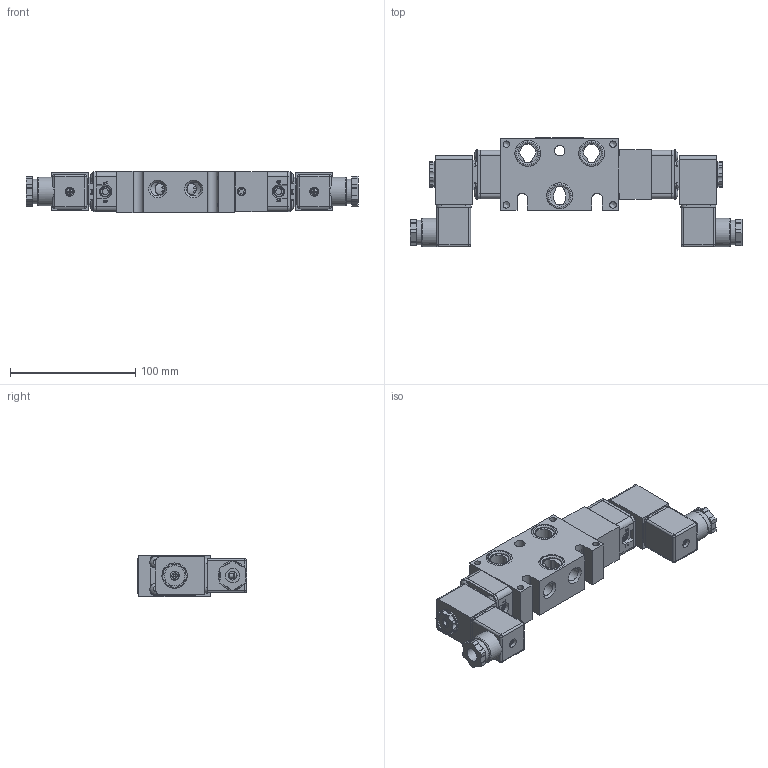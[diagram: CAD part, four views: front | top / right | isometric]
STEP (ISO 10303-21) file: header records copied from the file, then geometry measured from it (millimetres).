
FILE_DESCRIPTION(/* description */ (''),/* implementation_level */ '2;1');
FILE_NAME(/* name */ 'EBSS2AQZ.stp',/* time_stamp */ '2026-09-29T10:06:49-04:00',/* author */ ('rmckenna'),/* organization */ (''),/* preprocessor_version */ 'ST-DEVELOPER v20.2',/* originating_system */ 'Autodesk Inventor 2027',/* authorisation */ '');
FILE_SCHEMA (('AUTOMOTIVE_DESIGN { 1 0 10303 214 3 1 1 }'));
Products named in the file (1): Part75
Bounding box: 264.59 x 87.58 x 33.32 mm (x, y, z)
Volume: 309110.2 mm3; surface area: 128113.6 mm2
Topology: 1 solids, 44 shells, 2553 faces, 6314 edges, 4040 vertices
Faces by surface type: plane 1249, cylinder 744, cone 291, torus 155, bspline 94, sphere 20
Full cylindrical faces by diameter (mm): 1.3 x2, 1.397 x2, 1.5 x4, 1.651 x2, 2.032 x16, 2.07 x2, 2.261 x2, 2.35 x8, 2.5 x2, 2.778 x2, 2.8 x2, 2.819 x2, 2.845 x4, 3 x8, 3.048 x3, 3.175 x1, 3.353 x1, 3.4 x2, 3.683 x10, 3.988 x2, 4.064 x2, 4.191 x4, 4.305 x2, 4.826 x8, 4.953 x2, 4.978 x1, 5.15 x8, 5.156 x16, 5.159 x4, 5.385 x2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
Entity records: 82713 total; most frequent: CARTESIAN_POINT 18779, DIRECTION 12972, ORIENTED_EDGE 12570, EDGE_CURVE 6285, AXIS2_PLACEMENT_3D 4823, VERTEX_POINT 4038, LINE 3326, VECTOR 3326
